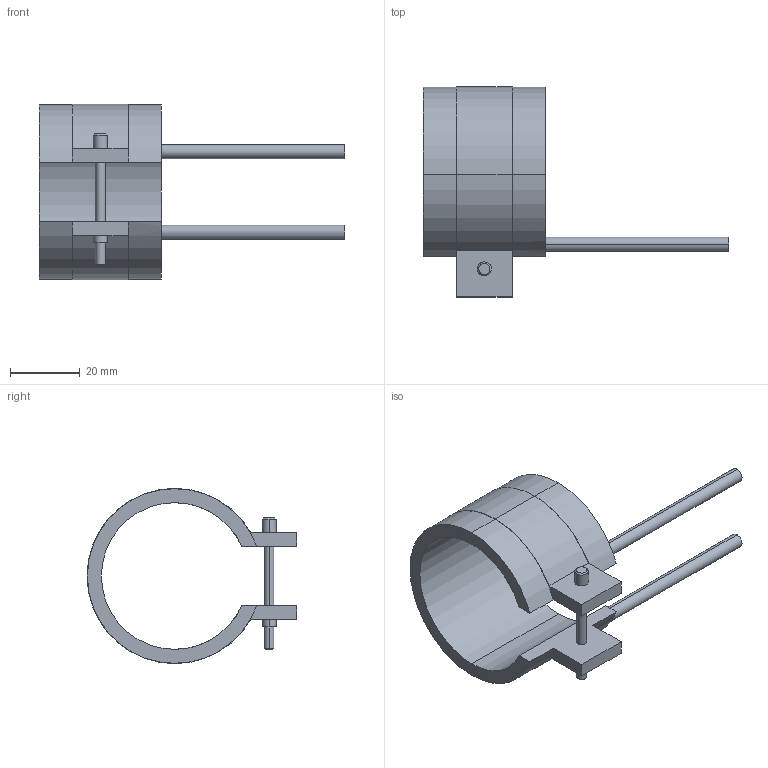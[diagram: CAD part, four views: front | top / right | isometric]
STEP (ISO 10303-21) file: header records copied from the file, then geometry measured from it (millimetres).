
FILE_DESCRIPTION(('CATIA V5 STEP Exchange'),'2;1');
FILE_NAME('C:\Users\Utente\Desktop\IO LAVORO\3D X SITO CF\X SITO\PLASTICA\RF2\14042035.stp','2021-03-31T12:03:13+00:00',('none'),('none'),'CATIA Version 5 Release 20 GA (IN-10)','CATIA V5 STEP AP203','none');
FILE_SCHEMA(('CONFIG_CONTROL_DESIGN'));
Length unit declared in the file: millimetre
Products named in the file (1): 14042035
Bounding box: 87.5 x 60.1 x 50.2 mm (x, y, z)
Volume: 21125.6 mm3; surface area: 12813.7 mm2
Topology: 1 solids, 1 shells, 45 faces, 116 edges, 76 vertices
Faces by surface type: cylinder 24, plane 17, cone 4
Entity records: 1412 total; most frequent: CARTESIAN_POINT 290, ORIENTED_EDGE 232, DIRECTION 194, EDGE_CURVE 116, AXIS2_PLACEMENT_3D 102, VERTEX_POINT 76, CIRCLE 60, VECTOR 52
